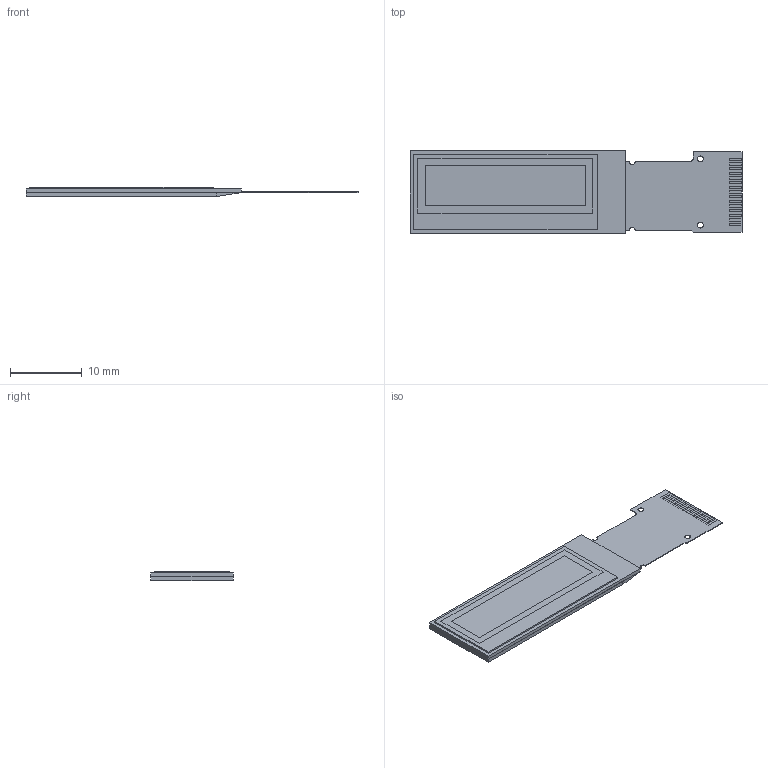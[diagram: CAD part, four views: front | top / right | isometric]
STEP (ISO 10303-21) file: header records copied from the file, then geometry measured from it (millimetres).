
FILE_DESCRIPTION (( 'STEP AP214' ), '1' );
FILE_NAME ('CFAL12832B0091PWSLDPRT.STEP', '2020-05-11T15:47:33', ( '' ), ( '' ), 'SwSTEP 2.0', 'SolidWorks 2015', '' );
FILE_SCHEMA (( 'AUTOMOTIVE_DESIGN' ));
Length unit declared in the file: millimetre
Products named in the file (1): CFAL12832B0091PWSLDPRT
Bounding box: 46.3 x 11.5 x 1.26 mm (x, y, z)
Volume: 424.6 mm3; surface area: 2382.6 mm2
Topology: 20 solids, 20 shells, 134 faces, 284 edges, 192 vertices
Faces by surface type: plane 127, cylinder 7
Entity records: 5222 total; most frequent: CARTESIAN_POINT 611, ORIENTED_EDGE 568, DIRECTION 568, EDGE_CURVE 284, LINE 270, VECTOR 270, VERTEX_POINT 192, UNCERTAINTY_MEASURE_WITH_UNIT 155
